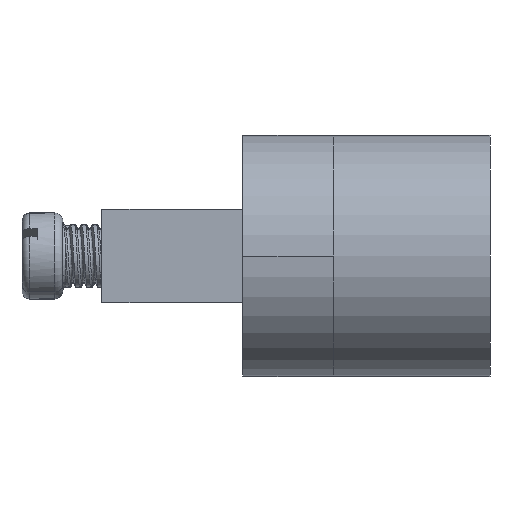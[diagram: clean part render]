
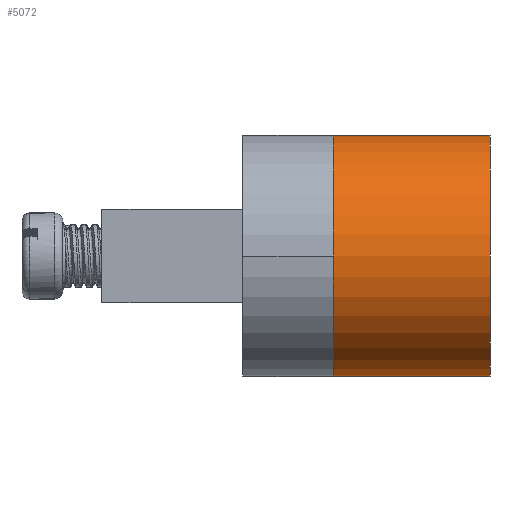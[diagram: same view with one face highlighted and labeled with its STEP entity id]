
A CAD part, left-side view. The second image highlights one B-rep face of the part: STEP entity #5072.
In plain terms, the highlighted cylindrical face has radius 7.7 mm (diameter 15.4 mm), a partial arc.
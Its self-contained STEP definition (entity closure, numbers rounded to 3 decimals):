
#178 = VERTEX_POINT ( 'NONE', #6147 ) ;
#290 = CARTESIAN_POINT ( 'NONE',  ( 14., -7.7, 10. ) ) ;
#682 = EDGE_LOOP ( 'NONE', ( #5189, #2087, #7842, #3290 ) ) ;
#1051 = DIRECTION ( 'NONE',  ( 0., 0., -1. ) ) ;
#1203 = EDGE_CURVE ( 'NONE', #2105, #3757, #3006, .T. ) ;
#1408 = AXIS2_PLACEMENT_3D ( 'NONE', #2866, #7477, #3526 ) ;
#1437 = FACE_OUTER_BOUND ( 'NONE', #682, .T. ) ;
#1628 = AXIS2_PLACEMENT_3D ( 'NONE', #2067, #2719, #2698 ) ;
#1776 = AXIS2_PLACEMENT_3D ( 'NONE', #3938, #8199, #4590 ) ;
#2067 = CARTESIAN_POINT ( 'NONE',  ( 14., 0., 10. ) ) ;
#2087 = ORIENTED_EDGE ( 'NONE', *, *, #8197, .F. ) ;
#2105 = VERTEX_POINT ( 'NONE', #3003 ) ;
#2378 = CARTESIAN_POINT ( 'NONE',  ( 14., 7.7, 10. ) ) ;
#2549 = EDGE_CURVE ( 'NONE', #2105, #178, #5540, .T. ) ;
#2698 = DIRECTION ( 'NONE',  ( -1., 0., 0. ) ) ;
#2719 = DIRECTION ( 'NONE',  ( 0., 0., -1. ) ) ;
#2787 = VECTOR ( 'NONE', #8192, 1000. ) ;
#2866 = CARTESIAN_POINT ( 'NONE',  ( 14., 0., 0. ) ) ;
#3003 = CARTESIAN_POINT ( 'NONE',  ( 14., -7.7, 10. ) ) ;
#3006 = LINE ( 'NONE', #290, #2787 ) ;
#3290 = ORIENTED_EDGE ( 'NONE', *, *, #1203, .T. ) ;
#3526 = DIRECTION ( 'NONE',  ( 1., 0., 0. ) ) ;
#3757 = VERTEX_POINT ( 'NONE', #3876 ) ;
#3776 = VERTEX_POINT ( 'NONE', #5847 ) ;
#3876 = CARTESIAN_POINT ( 'NONE',  ( 14., -7.7, 0. ) ) ;
#3938 = CARTESIAN_POINT ( 'NONE',  ( 14., 0., 10. ) ) ;
#4590 = DIRECTION ( 'NONE',  ( 1., 0., 0. ) ) ;
#5072 = ADVANCED_FACE ( 'NONE', ( #1437 ), #7836, .T. ) ;
#5189 = ORIENTED_EDGE ( 'NONE', *, *, #6570, .T. ) ;
#5540 = CIRCLE ( 'NONE', #1776, 7.7 ) ;
#5847 = CARTESIAN_POINT ( 'NONE',  ( 14., 7.7, 0. ) ) ;
#6132 = VECTOR ( 'NONE', #1051, 1000. ) ;
#6147 = CARTESIAN_POINT ( 'NONE',  ( 14., 7.7, 10. ) ) ;
#6330 = LINE ( 'NONE', #2378, #6132 ) ;
#6570 = EDGE_CURVE ( 'NONE', #3757, #3776, #7603, .T. ) ;
#7477 = DIRECTION ( 'NONE',  ( 0., 0., 1. ) ) ;
#7603 = CIRCLE ( 'NONE', #1408, 7.7 ) ;
#7836 = CYLINDRICAL_SURFACE ( 'NONE', #1628, 7.7 ) ;
#7842 = ORIENTED_EDGE ( 'NONE', *, *, #2549, .F. ) ;
#8192 = DIRECTION ( 'NONE',  ( 0., 0., -1. ) ) ;
#8197 = EDGE_CURVE ( 'NONE', #178, #3776, #6330, .T. ) ;
#8199 = DIRECTION ( 'NONE',  ( 0., 0., 1. ) ) ;
